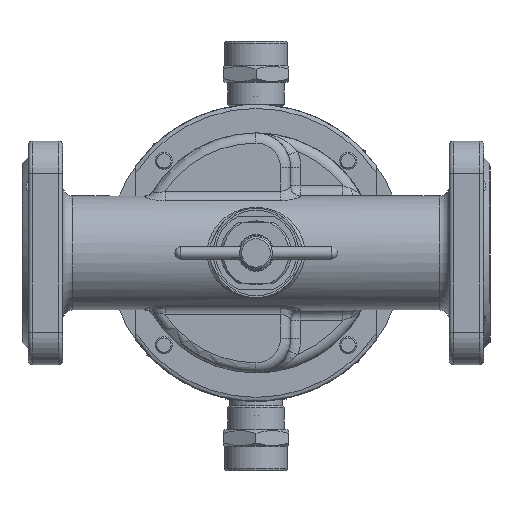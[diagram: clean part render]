
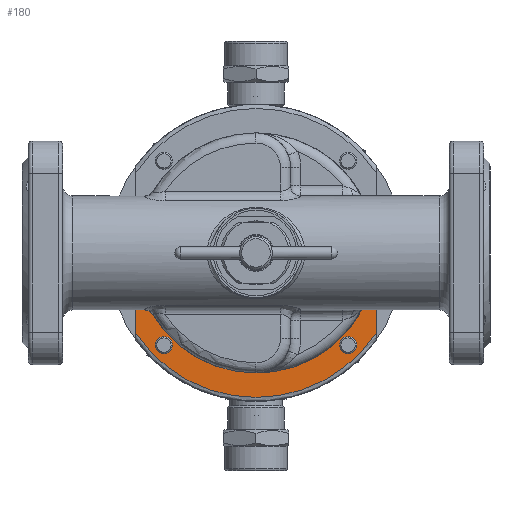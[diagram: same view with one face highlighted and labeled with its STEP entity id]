
A CAD part, front view. The second image highlights one B-rep face of the part: STEP entity #180.
In plain terms, the highlighted planar face has unit normal (0, -1, 0).
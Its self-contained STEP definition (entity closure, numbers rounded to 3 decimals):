
#180=ADVANCED_FACE('',(#4435,#4437,#4439),#4441,.F.);
#4435=FACE_BOUND('',#4436,.T.);
#4436=EDGE_LOOP('',(#21559));
#4437=FACE_BOUND('',#4438,.T.);
#4438=EDGE_LOOP('',(#21560));
#4439=FACE_OUTER_BOUND('',#4440,.T.);
#4440=EDGE_LOOP('',(#21561,#21562,#21563,#21564));
#4441=PLANE('',#4442);
#4442=AXIS2_PLACEMENT_3D('',#4443,#4444,#4445);
#4443=CARTESIAN_POINT('',(0.,39.5,0.));
#4444=DIRECTION('',(0.,1.,0.));
#4445=DIRECTION('',(-1.,0.,0.));
#21559=ORIENTED_EDGE('',*,*,#32846,.T.);
#21560=ORIENTED_EDGE('',*,*,#32847,.T.);
#21561=ORIENTED_EDGE('',*,*,#32848,.F.);
#21562=ORIENTED_EDGE('',*,*,#32752,.F.);
#21563=ORIENTED_EDGE('',*,*,#32780,.F.);
#21564=ORIENTED_EDGE('',*,*,#32758,.F.);
#32752=EDGE_CURVE('',#37654,#37759,#37760,.T.);
#32758=EDGE_CURVE('',#37767,#37652,#37769,.T.);
#32780=EDGE_CURVE('',#37652,#37654,#37806,.T.);
#32846=EDGE_CURVE('',#37914,#37914,#37915,.T.);
#32847=EDGE_CURVE('',#37916,#37916,#37917,.T.);
#32848=EDGE_CURVE('',#37759,#37767,#37918,.T.);
#37652=VERTEX_POINT('',#45931);
#37654=VERTEX_POINT('',#45935);
#37759=VERTEX_POINT('',#46298);
#37760=LINE('',#46299,#46300);
#37767=VERTEX_POINT('',#46371);
#37769=LINE('',#46429,#46430);
#37806=CIRCLE('',#46615,59.);
#37914=VERTEX_POINT('',#47182);
#37915=CIRCLE('',#47183,4.188);
#37916=VERTEX_POINT('',#47187);
#37917=CIRCLE('',#47188,4.188);
#37918=CIRCLE('',#47192,71.);
#45931=CARTESIAN_POINT('',(-59.,39.5,0.));
#45935=CARTESIAN_POINT('',(59.,39.5,0.));
#46298=CARTESIAN_POINT('',(59.,39.5,-39.497));
#46299=CARTESIAN_POINT('',(59.,39.5,0.));
#46300=VECTOR('',#46301,1.);
#46301=DIRECTION('',(0.,0.,-1.));
#46371=CARTESIAN_POINT('',(-59.,39.5,-39.497));
#46429=CARTESIAN_POINT('',(-59.,39.5,-39.497));
#46430=VECTOR('',#46431,1.);
#46431=DIRECTION('',(0.,0.,1.));
#46615=AXIS2_PLACEMENT_3D('',#46616,#46617,#46618);
#46616=CARTESIAN_POINT('',(0.,39.5,0.));
#46617=DIRECTION('',(0.,-1.,0.));
#46618=DIRECTION('',(-1.,0.,0.));
#47182=CARTESIAN_POINT('',(-49.443,39.5,-45.255));
#47183=AXIS2_PLACEMENT_3D('',#47184,#47185,#47186);
#47184=CARTESIAN_POINT('',(-45.255,39.5,-45.255));
#47185=DIRECTION('',(0.,1.,0.));
#47186=DIRECTION('',(-1.,0.,0.));
#47187=CARTESIAN_POINT('',(41.067,39.5,-45.255));
#47188=AXIS2_PLACEMENT_3D('',#47189,#47190,#47191);
#47189=CARTESIAN_POINT('',(45.255,39.5,-45.255));
#47190=DIRECTION('',(0.,1.,0.));
#47191=DIRECTION('',(-1.,0.,0.));
#47192=AXIS2_PLACEMENT_3D('',#47193,#47194,#47195);
#47193=CARTESIAN_POINT('',(0.,39.5,0.));
#47194=DIRECTION('',(0.,1.,0.));
#47195=DIRECTION('',(0.831,0.,-0.556));
